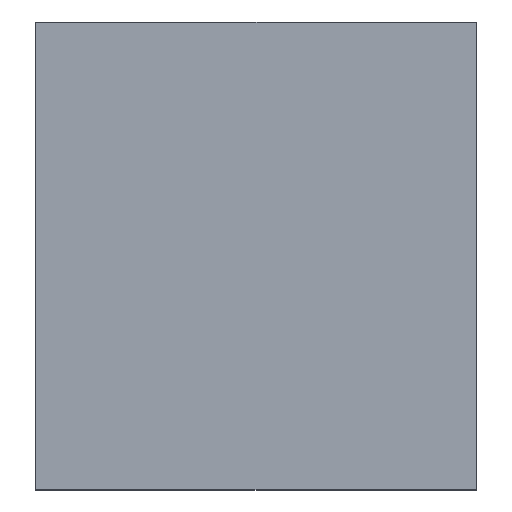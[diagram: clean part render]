
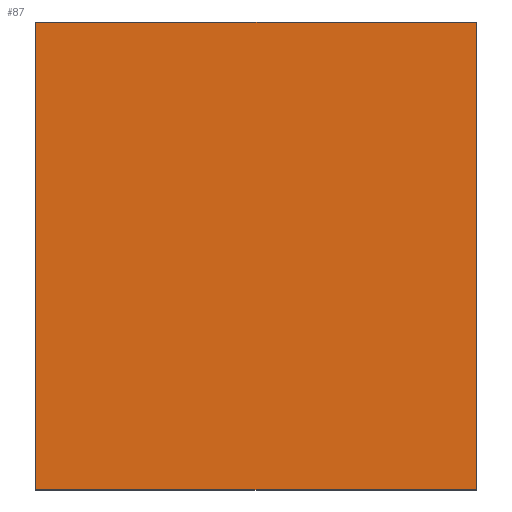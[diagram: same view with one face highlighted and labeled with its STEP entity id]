
A CAD part, top view. The second image highlights one B-rep face of the part: STEP entity #87.
In plain terms, the highlighted planar face has unit normal (0, 0, 1).
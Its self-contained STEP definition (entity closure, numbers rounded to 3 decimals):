
#49 = ORIENTED_EDGE ( 'NONE', *, *, #1086, .T. ) ;
#87 = ADVANCED_FACE ( 'NONE', ( #471 ), #361, .F. ) ;
#91 = CARTESIAN_POINT ( 'NONE',  ( 66., 0., 19. ) ) ;
#160 = ORIENTED_EDGE ( 'NONE', *, *, #258, .T. ) ;
#196 = CARTESIAN_POINT ( 'NONE',  ( 0., 70., 19. ) ) ;
#207 = CARTESIAN_POINT ( 'NONE',  ( 0., 70., 19. ) ) ;
#236 = ORIENTED_EDGE ( 'NONE', *, *, #699, .T. ) ;
#247 = CARTESIAN_POINT ( 'NONE',  ( 0., 0., 19. ) ) ;
#258 = EDGE_CURVE ( 'NONE', #725, #991, #408, .T. ) ;
#259 = CARTESIAN_POINT ( 'NONE',  ( 66., 70., 19. ) ) ;
#266 = VECTOR ( 'NONE', #823, 1000. ) ;
#289 = DIRECTION ( 'NONE',  ( 0., 0., -1. ) ) ;
#296 = CARTESIAN_POINT ( 'NONE',  ( 0., 0., 19. ) ) ;
#306 = DIRECTION ( 'NONE',  ( -1., 0., 0. ) ) ;
#344 = EDGE_LOOP ( 'NONE', ( #236, #49, #677, #160 ) ) ;
#361 = PLANE ( 'NONE',  #1123 ) ;
#408 = LINE ( 'NONE', #207, #841 ) ;
#413 = VECTOR ( 'NONE', #464, 1000. ) ;
#445 = CARTESIAN_POINT ( 'NONE',  ( 0., 0., 19. ) ) ;
#464 = DIRECTION ( 'NONE',  ( 0., 1., 0. ) ) ;
#471 = FACE_OUTER_BOUND ( 'NONE', #344, .T. ) ;
#483 = EDGE_CURVE ( 'NONE', #1139, #725, #893, .T. ) ;
#557 = CARTESIAN_POINT ( 'NONE',  ( 0., 0., 19. ) ) ;
#677 = ORIENTED_EDGE ( 'NONE', *, *, #483, .T. ) ;
#699 = EDGE_CURVE ( 'NONE', #991, #915, #1038, .T. ) ;
#725 = VERTEX_POINT ( 'NONE', #259 ) ;
#823 = DIRECTION ( 'NONE',  ( 1., 0., 0. ) ) ;
#828 = DIRECTION ( 'NONE',  ( -1., 0., 0. ) ) ;
#834 = LINE ( 'NONE', #296, #266 ) ;
#841 = VECTOR ( 'NONE', #306, 1000. ) ;
#893 = LINE ( 'NONE', #91, #413 ) ;
#915 = VERTEX_POINT ( 'NONE', #445 ) ;
#991 = VERTEX_POINT ( 'NONE', #196 ) ;
#993 = VECTOR ( 'NONE', #1060, 1000. ) ;
#1004 = CARTESIAN_POINT ( 'NONE',  ( 66., 0., 19. ) ) ;
#1038 = LINE ( 'NONE', #247, #993 ) ;
#1060 = DIRECTION ( 'NONE',  ( 0., -1., 0. ) ) ;
#1086 = EDGE_CURVE ( 'NONE', #915, #1139, #834, .T. ) ;
#1123 = AXIS2_PLACEMENT_3D ( 'NONE', #557, #289, #828 ) ;
#1139 = VERTEX_POINT ( 'NONE', #1004 ) ;
